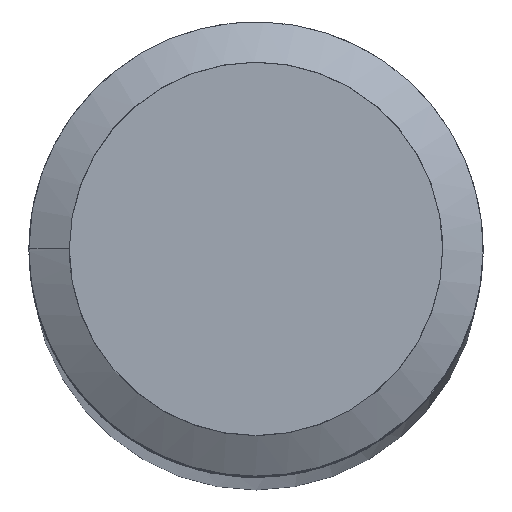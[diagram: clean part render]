
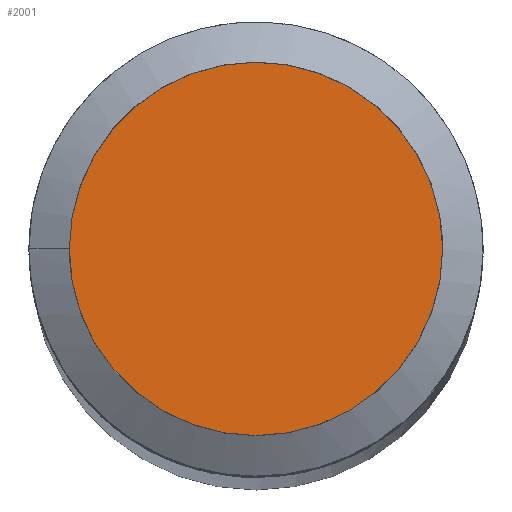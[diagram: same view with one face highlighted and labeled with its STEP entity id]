
A CAD part, top view. The second image highlights one B-rep face of the part: STEP entity #2001.
In plain terms, the highlighted planar face has unit normal (0, 0, 1).
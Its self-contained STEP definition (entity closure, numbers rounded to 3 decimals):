
#8 = CIRCLE ( 'NONE', #2995, 2.5 ) ;
#113 = CARTESIAN_POINT ( 'NONE',  ( 2.5, 0., 134. ) ) ;
#192 = AXIS2_PLACEMENT_3D ( 'NONE', #794, #1486, #2447 ) ;
#423 = EDGE_CURVE ( 'NONE', #2158, #696, #1557, .T. ) ;
#659 = CARTESIAN_POINT ( 'NONE',  ( 0., 0., 134. ) ) ;
#696 = VERTEX_POINT ( 'NONE', #1944 ) ;
#794 = CARTESIAN_POINT ( 'NONE',  ( 0., 0., 134. ) ) ;
#863 = EDGE_LOOP ( 'NONE', ( #1901, #2879 ) ) ;
#1237 = CARTESIAN_POINT ( 'NONE',  ( 0., 0., 134. ) ) ;
#1466 = DIRECTION ( 'NONE',  ( 0., 0., 1. ) ) ;
#1486 = DIRECTION ( 'NONE',  ( 0., 0., 1. ) ) ;
#1557 = CIRCLE ( 'NONE', #2334, 2.5 ) ;
#1901 = ORIENTED_EDGE ( 'NONE', *, *, #1907, .T. ) ;
#1907 = EDGE_CURVE ( 'NONE', #696, #2158, #8, .T. ) ;
#1944 = CARTESIAN_POINT ( 'NONE',  ( -2.5, 0., 134. ) ) ;
#2001 = ADVANCED_FACE ( 'NONE', ( #2072 ), #2898, .T. ) ;
#2072 = FACE_OUTER_BOUND ( 'NONE', #863, .T. ) ;
#2150 = DIRECTION ( 'NONE',  ( 1., 0., 0. ) ) ;
#2158 = VERTEX_POINT ( 'NONE', #113 ) ;
#2334 = AXIS2_PLACEMENT_3D ( 'NONE', #659, #2808, #3056 ) ;
#2447 = DIRECTION ( 'NONE',  ( 1., 0., 0. ) ) ;
#2808 = DIRECTION ( 'NONE',  ( 0., 0., 1. ) ) ;
#2879 = ORIENTED_EDGE ( 'NONE', *, *, #423, .T. ) ;
#2898 = PLANE ( 'NONE',  #192 ) ;
#2995 = AXIS2_PLACEMENT_3D ( 'NONE', #1237, #1466, #2150 ) ;
#3056 = DIRECTION ( 'NONE',  ( 1., 0., 0. ) ) ;
